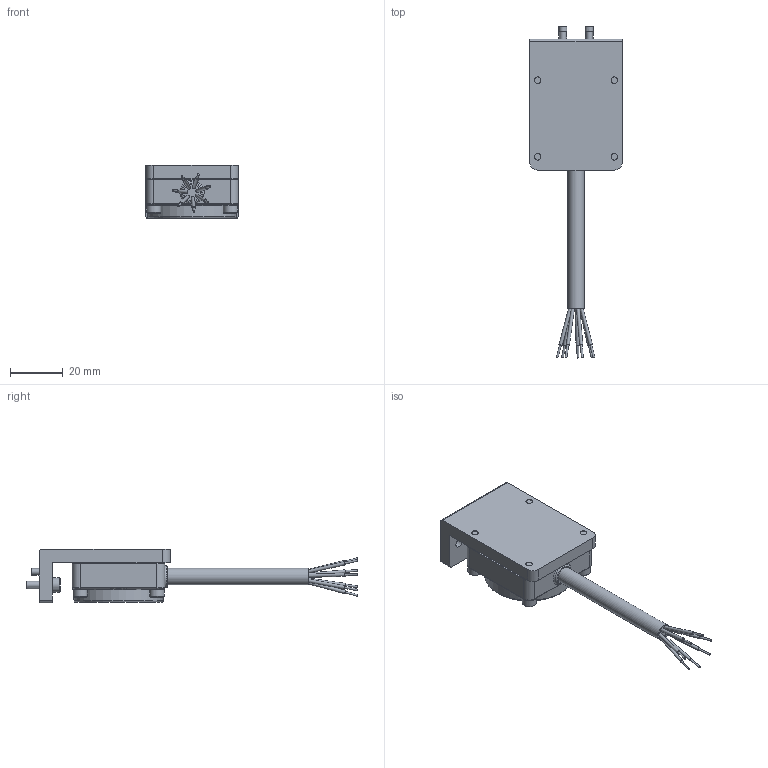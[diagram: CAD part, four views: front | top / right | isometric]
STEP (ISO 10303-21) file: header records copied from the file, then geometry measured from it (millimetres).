
FILE_DESCRIPTION(('STEP AP214'),'1');
FILE_NAME('KHB-3RS-NN4,NP4_ver1.stp','2026-04-24T00:21:36',(' '),(' '),'Spatial InterOp 3D',' ',' ');
FILE_SCHEMA(('AUTOMOTIVE_DESIGN { 1 0 10303 214 1 1 1 1 }'));
Length unit declared in the file: millimetre
Products named in the file (1): KHB-3RS-NN4,NP4_ver1
Bounding box: 35 x 125.57 x 20.2 mm (x, y, z)
Volume: 28974.5 mm3; surface area: 12816.9 mm2
Topology: 1 solids, 7 shells, 264 faces, 597 edges, 394 vertices
Faces by surface type: plane 120, cylinder 81, torus 21, bspline 21, cone 21
Full cylindrical faces by diameter (mm): 0.7 x7, 1.2 x7, 2.5 x10, 3 x4, 3.3 x4, 3.5 x4, 5 x4, 5.41 x6, 5.5 x4, 6.3 x1
Entity records: 9298 total; most frequent: CARTESIAN_POINT 1641, DIRECTION 1195, ORIENTED_EDGE 978, AXIS2_PLACEMENT_3D 498, EDGE_CURVE 489, EDGE_LOOP 405, VERTEX_POINT 362, FACE_OUTER_BOUND 319
